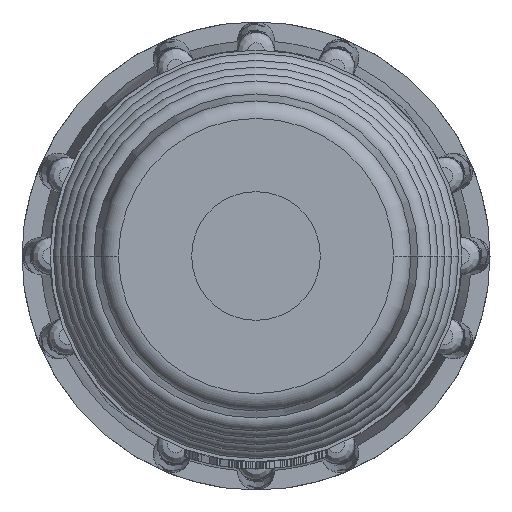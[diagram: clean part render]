
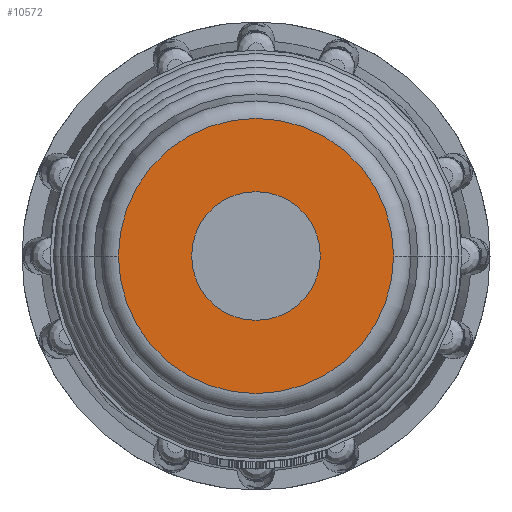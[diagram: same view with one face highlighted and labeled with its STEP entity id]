
A CAD part, front view. The second image highlights one B-rep face of the part: STEP entity #10572.
In plain terms, the highlighted planar face has unit normal (0, -1, 0).
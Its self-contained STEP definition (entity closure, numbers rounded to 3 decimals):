
#1087=CARTESIAN_POINT('',(0.,-43.,0.));
#1088=DIRECTION('',(0.,-1.,0.));
#1089=DIRECTION('',(1.,0.,0.));
#1090=AXIS2_PLACEMENT_3D('',#1087,#1088,#1089);
#1092=CARTESIAN_POINT('',(0.,-43.,0.));
#1093=DIRECTION('',(0.,1.,0.));
#1094=DIRECTION('',(1.,0.,0.));
#1095=AXIS2_PLACEMENT_3D('',#1092,#1093,#1094);
#1097=CARTESIAN_POINT('',(0.,-43.,0.));
#1098=DIRECTION('',(0.,1.,0.));
#1099=DIRECTION('',(1.,0.,0.));
#1100=AXIS2_PLACEMENT_3D('',#1097,#1098,#1099);
#1102=CARTESIAN_POINT('',(0.,-43.,0.));
#1103=DIRECTION('',(0.,1.,0.));
#1104=DIRECTION('',(-1.,0.,0.));
#1105=AXIS2_PLACEMENT_3D('',#1102,#1103,#1104);
#9112=CARTESIAN_POINT('',(5.88,-43.,0.));
#9114=VERTEX_POINT('',#9112);
#9120=CARTESIAN_POINT('',(-5.88,-43.,0.));
#9122=VERTEX_POINT('',#9120);
#9686=CARTESIAN_POINT('',(2.75,-43.,0.));
#9687=CARTESIAN_POINT('',(-2.75,-43.,0.));
#9688=VERTEX_POINT('',#9686);
#9689=VERTEX_POINT('',#9687);
#10557=CARTESIAN_POINT('',(0.,-43.,0.));
#10558=DIRECTION('',(0.,1.,0.));
#10559=DIRECTION('',(-1.,0.,0.));
#10560=AXIS2_PLACEMENT_3D('',#10557,#10558,#10559);
#10561=PLANE('',#10560);
#10562=ORIENTED_EDGE('',*,*,#10543,.F.);
#10563=ORIENTED_EDGE('',*,*,#10525,.T.);
#10564=EDGE_LOOP('',(#10562,#10563));
#10565=FACE_OUTER_BOUND('',#10564,.F.);
#10567=ORIENTED_EDGE('',*,*,#10566,.F.);
#10569=ORIENTED_EDGE('',*,*,#10568,.F.);
#10570=EDGE_LOOP('',(#10567,#10569));
#10571=FACE_BOUND('',#10570,.F.);
#10572=ADVANCED_FACE('',(#10565,#10571),#10561,.F.);
#1091=CIRCLE('',#1090,5.88);
#1096=CIRCLE('',#1095,5.88);
#1101=CIRCLE('',#1100,2.75);
#1106=CIRCLE('',#1105,2.75);
#10525=EDGE_CURVE('',#9114,#9122,#1096,.T.);
#10543=EDGE_CURVE('',#9114,#9122,#1091,.T.);
#10566=EDGE_CURVE('',#9688,#9689,#1101,.T.);
#10568=EDGE_CURVE('',#9689,#9688,#1106,.T.);
